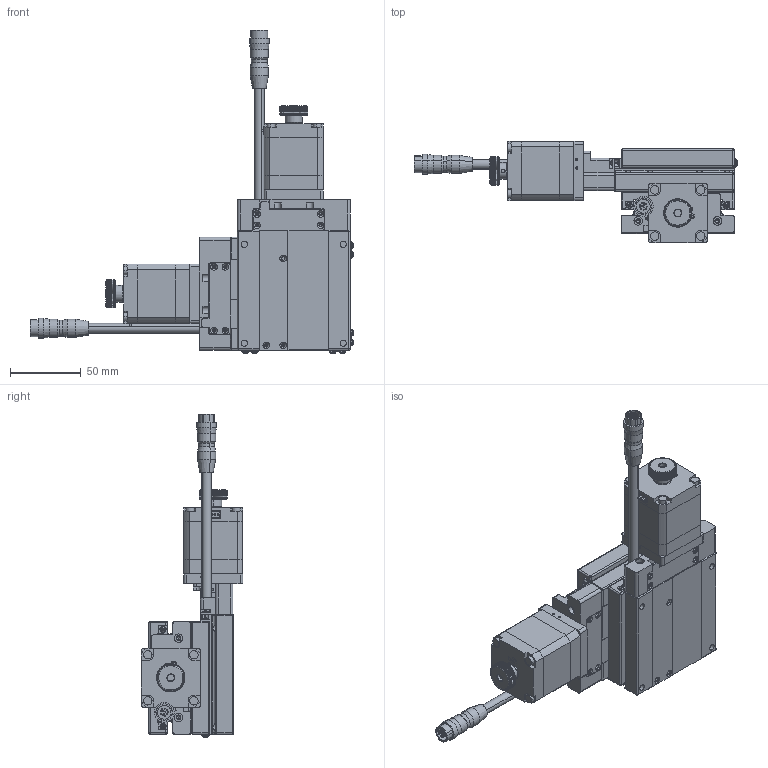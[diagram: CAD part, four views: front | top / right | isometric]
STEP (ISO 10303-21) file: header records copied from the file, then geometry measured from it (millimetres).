
FILE_DESCRIPTION (( 'STEP AP214' ), '1' );
FILE_NAME ('TYS8020B-L2-M42L.STEP', '2025-01-03T09:08:28', ( '' ), ( '' ), 'SwSTEP 2.0', 'SolidWorks 2020', '' );
FILE_SCHEMA (( 'AUTOMOTIVE_DESIGN' ));
Length unit declared in the file: millimetre
Products named in the file (2): TYS8020B-L2-M42L; TXS8020B-L2-M42L
Assembly tree (2 placements, depth 2):
  TYS8020B-L2-M42L
    TXS8020B-L2-M42L  x2
Bounding box: 228.92 x 72 x 228.92 mm (x, y, z)
Volume: 526543.2 mm3; surface area: 186526.9 mm2
Topology: 70 solids, 70 shells, 3348 faces, 8712 edges, 5456 vertices
Faces by surface type: plane 1318, cylinder 1132, cone 430, torus 376, sphere 64, bspline 28
Entity records: 56277 total; most frequent: CARTESIAN_POINT 15371, ORIENTED_EDGE 8500, DIRECTION 8471, EDGE_CURVE 4250, AXIS2_PLACEMENT_3D 3338, VERTEX_POINT 2728, EDGE_LOOP 1870, VECTOR 1795
